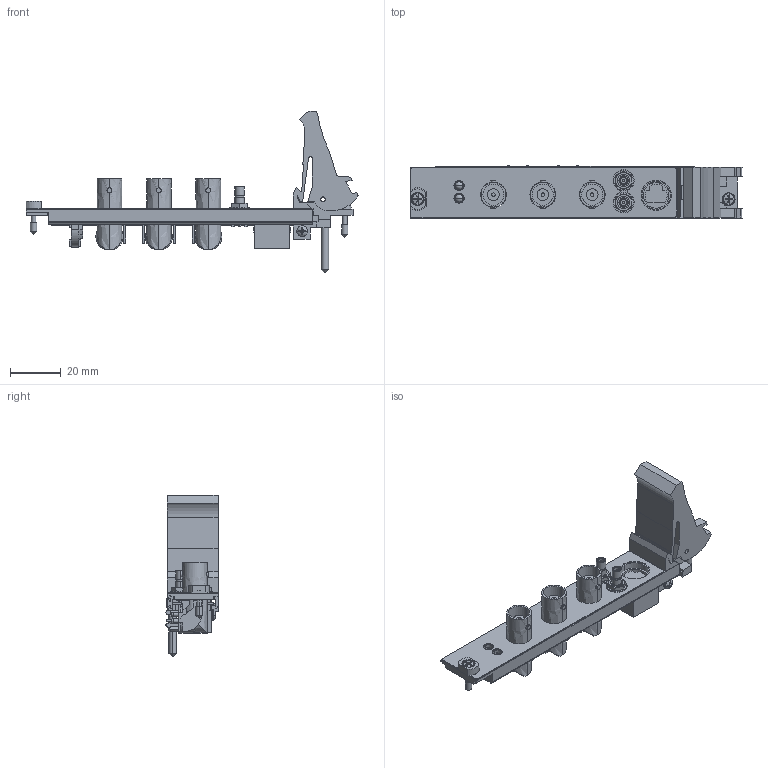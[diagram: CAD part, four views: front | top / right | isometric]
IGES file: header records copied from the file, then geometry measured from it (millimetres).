
Start section:  PTC IGES file: cu_pxie-5122.igs
Global section: file name: cu_pxie-5122.igs; native system: Pro/ENGINEER by Parametric Technology Corporation; preprocessor: 2006080; author: jjorden; organization: Unknown; date: 091113.113808; units: inch
Bounding box: 130.62 x 20.52 x 63.53 mm (x, y, z)
Surface area: 23833 mm2 (no closed solid volume)
Topology: 0 solids, 0 shells, 957 faces, 5050 edges, 5022 vertices
Faces by surface type: bspline 581, revolution 376
